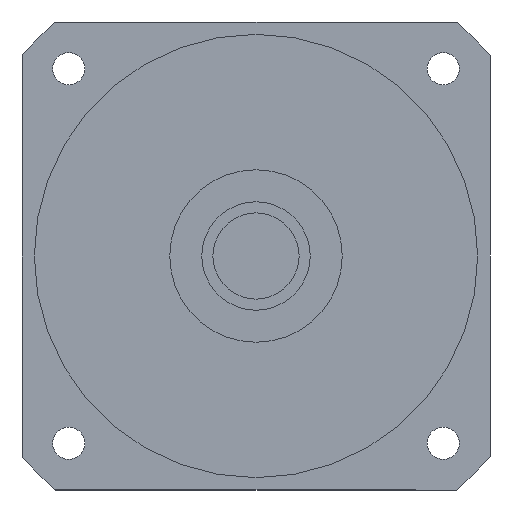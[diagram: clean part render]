
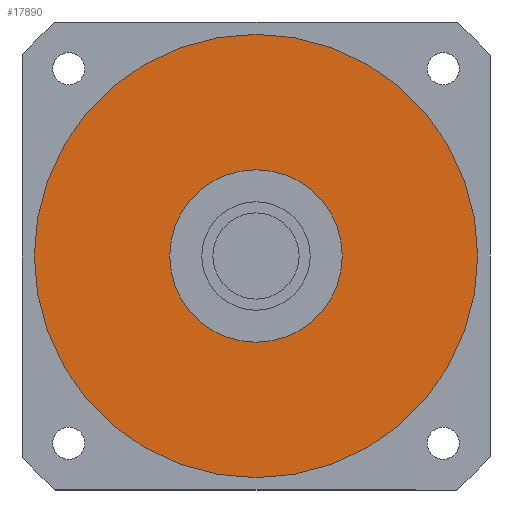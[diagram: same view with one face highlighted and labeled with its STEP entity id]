
A CAD part, left-side view. The second image highlights one B-rep face of the part: STEP entity #17890.
In plain terms, the highlighted planar face has unit normal (-1, 0, 0) as drawn and (0, 0, -1) by its records, which use the part's own axes.
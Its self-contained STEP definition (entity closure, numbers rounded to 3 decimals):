
#17310=CARTESIAN_POINT('',(90.,0.,-80.2));
#17320=VERTEX_POINT('',#17310);
#17410=CARTESIAN_POINT('',(-90.,0.,-80.2));
#17420=VERTEX_POINT('',#17410);
#17450=CARTESIAN_POINT('',(0.,0.,
-80.2));
#17460=DIRECTION('',(0.,0.,1.));
#17470=DIRECTION('',(0.,1.,0.));
#17480=AXIS2_PLACEMENT_3D('',#17450,#17460,#17470);
#17490=CIRCLE('',#17480,90.);
#17500=CARTESIAN_POINT('',(0.,90.,-80.2));
#17510=VERTEX_POINT('',#17500);
#17520=EDGE_CURVE('',#17510,#17420,#17490,.T.);
#17540=EDGE_CURVE('',#17320,#17510,#17490,.T.);
#17590=CARTESIAN_POINT('',(0.,0.,
-80.2));
#17600=DIRECTION('',(0.,0.,1.));
#17610=DIRECTION('',(-1.,0.,0.));
#17620=AXIS2_PLACEMENT_3D('',#17590,#17600,#17610);
#17630=PLANE('',#17620);
#17640=CARTESIAN_POINT('',(0.,0.,
-80.2));
#17650=DIRECTION('',(0.,0.,1.));
#17660=DIRECTION('',(0.,1.,0.));
#17670=AXIS2_PLACEMENT_3D('',#17640,#17650,#17660);
#17680=CIRCLE('',#17670,35.);
#17690=CARTESIAN_POINT('',(-35.,0.,-80.2));
#17700=VERTEX_POINT('',#17690);
#17710=CARTESIAN_POINT('',(35.,0.,-80.2));
#17720=VERTEX_POINT('',#17710);
#17730=EDGE_CURVE('',#17700,#17720,#17680,.T.);
#17740=ORIENTED_EDGE('',*,*,#17730,.T.);
#17750=CARTESIAN_POINT('',(0.,35.,-80.2));
#17760=VERTEX_POINT('',#17750);
#17770=EDGE_CURVE('',#17760,#17700,#17680,.T.);
#17780=ORIENTED_EDGE('',*,*,#17770,.T.);
#17790=EDGE_CURVE('',#17720,#17760,#17680,.T.);
#17800=ORIENTED_EDGE('',*,*,#17790,.T.);
#17810=EDGE_LOOP('',(#17800,#17780,#17740));
#17820=FACE_BOUND('',#17810,.T.);
#17830=ORIENTED_EDGE('',*,*,#17520,.F.);
#17840=EDGE_CURVE('',#17420,#17320,#17490,.T.);
#17850=ORIENTED_EDGE('',*,*,#17840,.F.);
#17860=ORIENTED_EDGE('',*,*,#17540,.F.);
#17870=EDGE_LOOP('',(#17860,#17850,#17830));
#17880=FACE_OUTER_BOUND('',#17870,.T.);
#17890=ADVANCED_FACE('',(#17820,#17880),#17630,.F.);
